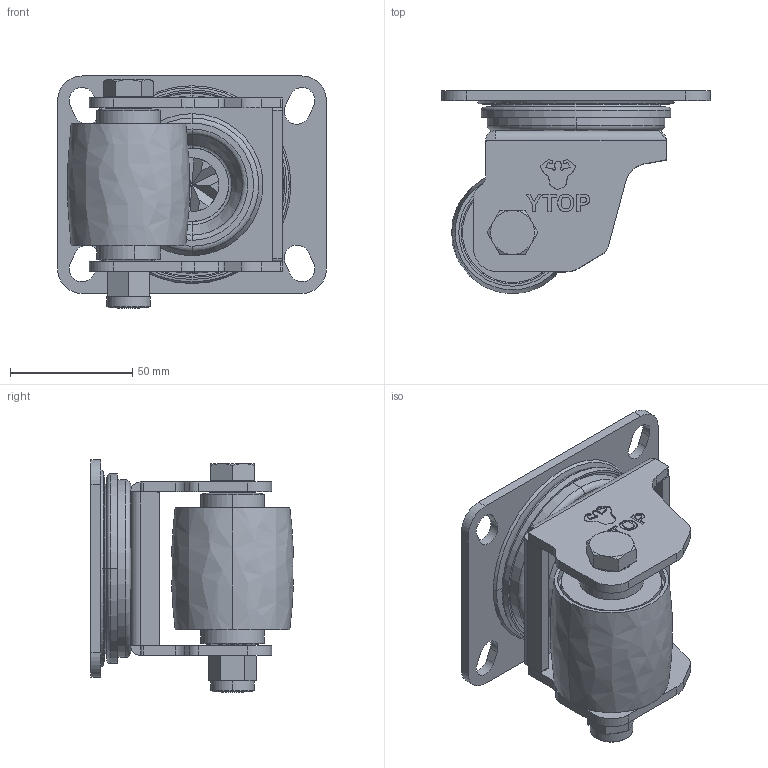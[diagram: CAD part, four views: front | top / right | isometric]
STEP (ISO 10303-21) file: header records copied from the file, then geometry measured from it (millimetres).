
FILE_DESCRIPTION((''),'2;1');
FILE_NAME('09112_ASM','2023-09-15T',('Administrator'),(''),'PRO/ENGINEER BY PARAMETRIC TECHNOLOGY CORPORATION, 2015240','PRO/ENGINEER BY PARAMETRIC TECHNOLOGY CORPORATION, 2015240','');
FILE_SCHEMA(('CONFIG_CONTROL_DESIGN'));
Length unit declared in the file: millimetre
Products named in the file (20): ____10_10_; ____10_5_; ____________3____-26159_; ____________3___65_; ____________3___-14897_; PRODUCT_4528_; GB__T97__1-2002______A__16__3_; 11144__ASM; ____________________; _PA6_____6-3725_; GB__T276-94__________6203-2Z_; 3_____________________10_1___; ________________17X12X62_2_; 3____________PA6____-26387__ASM; ____________3_________________; GB__T5782-2000______B__; GB__T889__1-20001_____; ______________; 20B-75H-50-PA6___3__P__ASM; 09112_ASM
Assembly tree (65 placements, depth 4):
  09112_ASM
    20B-75H-50-PA6___3__P__ASM
      11144__ASM
        ____10_10_  x18
        ____10_5_  x28
        ____________3____-26159_
        ____________3___65_
        ____________3___-14897_
        PRODUCT_4528_
        GB__T97__1-2002______A__16__3_
      ____________________
      3____________PA6____-26387__ASM
        _PA6_____6-3725_
        GB__T276-94__________6203-2Z_  x2
        3_____________________10_1___  x2
        ________________17X12X62_2_
      ____________3_________________
      GB__T5782-2000______B__
      GB__T889__1-20001_____
      ______________
Bounding box: 110 x 82.83 x 95 mm (x, y, z)
Volume: 205266.5 mm3; surface area: 140074.9 mm2
Topology: 62 solids, 62 shells, 1137 faces, 3204 edges, 2023 vertices
Faces by surface type: sphere 312, plane 283, cylinder 172, extrusion 166, torus 130, cone 68, bspline 6
Entity records: 30813 total; most frequent: CARTESIAN_POINT 10430, ORIENTED_EDGE 4272, DIRECTION 3922, EDGE_CURVE 2136, AXIS2_PLACEMENT_3D 1502, VERTEX_POINT 1393, VECTOR 918, EDGE_LOOP 899
